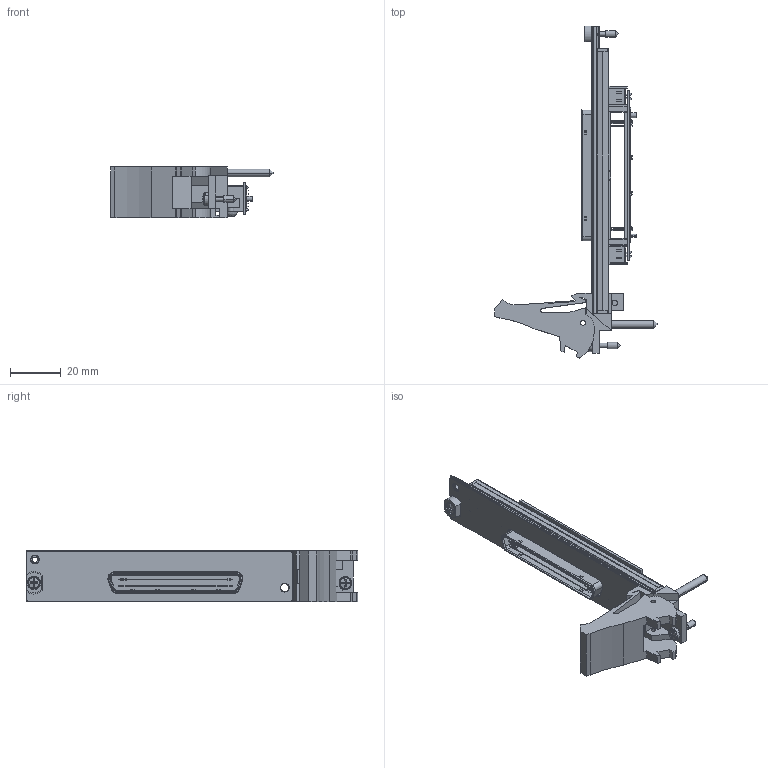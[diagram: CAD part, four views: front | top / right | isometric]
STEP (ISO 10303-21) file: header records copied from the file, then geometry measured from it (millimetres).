
FILE_DESCRIPTION((''),'2;1');
FILE_NAME('CU_PXI-2530','2009-09-01T',('jjorden'),(''),'PRO/ENGINEER BY PARAMETRIC TECHNOLOGY CORPORATION, 2006080','PRO/ENGINEER BY PARAMETRIC TECHNOLOGY CORPORATION, 2006080','');
FILE_SCHEMA(('CONFIG_CONTROL_DESIGN'));
Length unit declared in the file: inch
Products named in the file (1): CU_PXI-2530
Bounding box: 63.73 x 130.5 x 20.33 mm (x, y, z)
Volume: 20516 mm3; surface area: 22040.3 mm2
Topology: 2 solids, 2 shells, 1286 faces, 3449 edges, 2239 vertices
Faces by surface type: plane 959, cylinder 251, cone 30, bspline 22, torus 13, sphere 11
Entity records: 41432 total; most frequent: CARTESIAN_POINT 8761, ORIENTED_EDGE 6882, DIRECTION 6523, EDGE_CURVE 3441, VECTOR 2729, LINE 2729, VERTEX_POINT 2258, AXIS2_PLACEMENT_3D 1897
